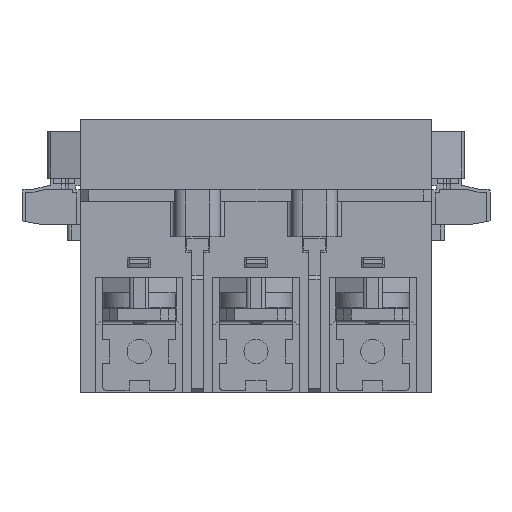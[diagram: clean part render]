
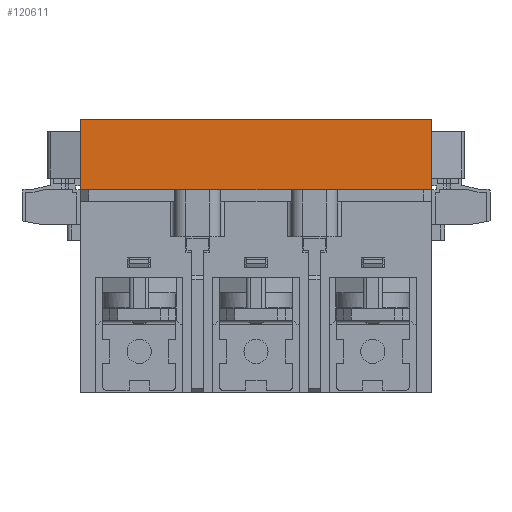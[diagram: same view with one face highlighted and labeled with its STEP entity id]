
A CAD part, front view. The second image highlights one B-rep face of the part: STEP entity #120611.
In plain terms, the highlighted planar face has unit normal (0, -1, 0).
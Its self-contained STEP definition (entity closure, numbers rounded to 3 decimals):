
#2196 = CARTESIAN_POINT ( 'NONE',  ( 40.314, -63.858, 52. ) ) ;
#3325 = ORIENTED_EDGE ( 'NONE', *, *, #67782, .F. ) ;
#8224 = VECTOR ( 'NONE', #106140, 1000. ) ;
#15490 = FACE_OUTER_BOUND ( 'NONE', #45431, .T. ) ;
#18924 = EDGE_CURVE ( 'NONE', #95777, #42958, #84518, .T. ) ;
#20917 = VERTEX_POINT ( 'NONE', #81116 ) ;
#23571 = VECTOR ( 'NONE', #100282, 1000. ) ;
#23935 = VECTOR ( 'NONE', #32034, 1000. ) ;
#24154 = ORIENTED_EDGE ( 'NONE', *, *, #24591, .T. ) ;
#24591 = EDGE_CURVE ( 'NONE', #20917, #50279, #109062, .T. ) ;
#30775 = LINE ( 'NONE', #55945, #74150 ) ;
#32034 = DIRECTION ( 'NONE',  ( 0., 0., -1. ) ) ;
#32173 = ORIENTED_EDGE ( 'NONE', *, *, #18924, .F. ) ;
#32184 = CARTESIAN_POINT ( 'NONE',  ( 36.709, -63.858, 52. ) ) ;
#36680 = AXIS2_PLACEMENT_3D ( 'NONE', #120530, #89733, #60211 ) ;
#42958 = VERTEX_POINT ( 'NONE', #32184 ) ;
#45431 = EDGE_LOOP ( 'NONE', ( #112633, #32173, #3325, #24154 ) ) ;
#46417 = DIRECTION ( 'NONE',  ( 1., 0., 0. ) ) ;
#50279 = VERTEX_POINT ( 'NONE', #125883 ) ;
#55945 = CARTESIAN_POINT ( 'NONE',  ( -53.291, -63.858, 70. ) ) ;
#57516 = CARTESIAN_POINT ( 'NONE',  ( -53.291, -63.858, 70. ) ) ;
#59354 = PLANE ( 'NONE',  #36680 ) ;
#60211 = DIRECTION ( 'NONE',  ( 0., 0., 1. ) ) ;
#67782 = EDGE_CURVE ( 'NONE', #20917, #95777, #30775, .T. ) ;
#74150 = VECTOR ( 'NONE', #46417, 1000. ) ;
#81116 = CARTESIAN_POINT ( 'NONE',  ( -53.291, -63.858, 70. ) ) ;
#84518 = LINE ( 'NONE', #111383, #23935 ) ;
#89733 = DIRECTION ( 'NONE',  ( 0., 1., 0. ) ) ;
#95777 = VERTEX_POINT ( 'NONE', #124819 ) ;
#100282 = DIRECTION ( 'NONE',  ( -1., 0., 0. ) ) ;
#106140 = DIRECTION ( 'NONE',  ( 0., 0., -1. ) ) ;
#106350 = EDGE_CURVE ( 'NONE', #42958, #50279, #110477, .T. ) ;
#109062 = LINE ( 'NONE', #57516, #8224 ) ;
#110477 = LINE ( 'NONE', #2196, #23571 ) ;
#111383 = CARTESIAN_POINT ( 'NONE',  ( 36.709, -63.858, 70. ) ) ;
#112633 = ORIENTED_EDGE ( 'NONE', *, *, #106350, .F. ) ;
#120530 = CARTESIAN_POINT ( 'NONE',  ( -53.291, -63.858, 70. ) ) ;
#120611 = ADVANCED_FACE ( 'NONE', ( #15490 ), #59354, .F. ) ;
#124819 = CARTESIAN_POINT ( 'NONE',  ( 36.709, -63.858, 70. ) ) ;
#125883 = CARTESIAN_POINT ( 'NONE',  ( -53.291, -63.858, 52. ) ) ;
